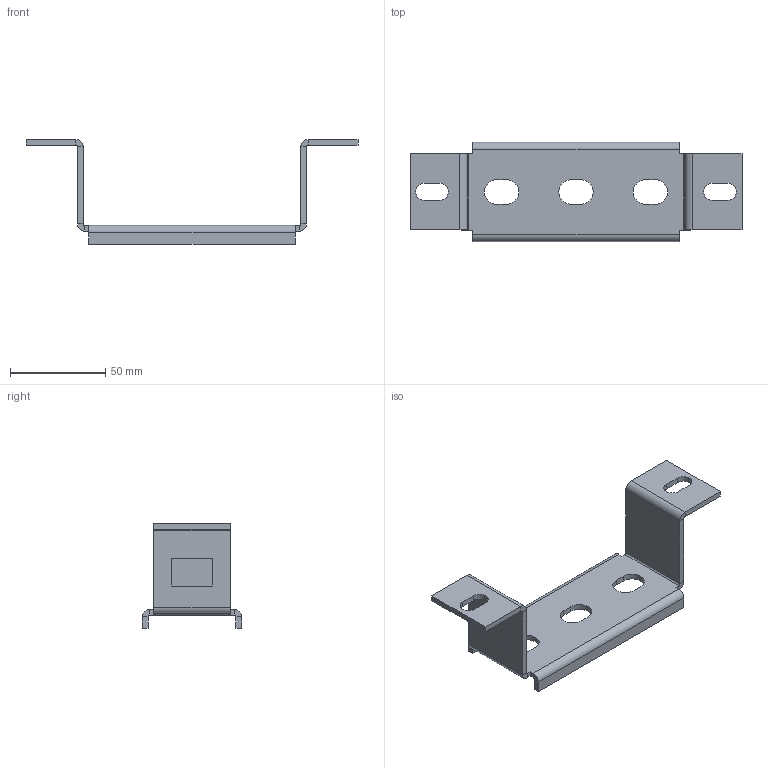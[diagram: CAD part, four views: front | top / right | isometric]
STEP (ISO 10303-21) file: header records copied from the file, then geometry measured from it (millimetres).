
FILE_DESCRIPTION(/* description */ ('Deckenkonsole Nr. 0, 3-fach'),/* implementation_level */ '2;1');
FILE_NAME(/* name */ 'Q:\sge-ma\Produktmanagement-STB\STB\Workspace\TraceParts\Deckenkonsole\010335803.stp',/* time_stamp */ '2018-02-20T13:02:07+01:00',/* author */ ('avschreier'),/* organization */ (''),/* preprocessor_version */ 'ST-DEVELOPER v16.1',/* originating_system */ 'Autodesk Inventor 2016',/* authorisation */ '');
FILE_SCHEMA (('CONFIG_CONTROL_DESIGN'));
Length unit declared in the file: millimetre
Products named in the file (1): 010335803
Bounding box: 174 x 52 x 55 mm (x, y, z)
Volume: 36394 mm3; surface area: 26933.2 mm2
Topology: 1 solids, 1 shells, 87 faces, 204 edges, 120 vertices
Faces by surface type: plane 65, cylinder 22
Entity records: 2474 total; most frequent: DIRECTION 424, CARTESIAN_POINT 412, ORIENTED_EDGE 408, EDGE_CURVE 204, LINE 160, VECTOR 160, AXIS2_PLACEMENT_3D 132, VERTEX_POINT 120
